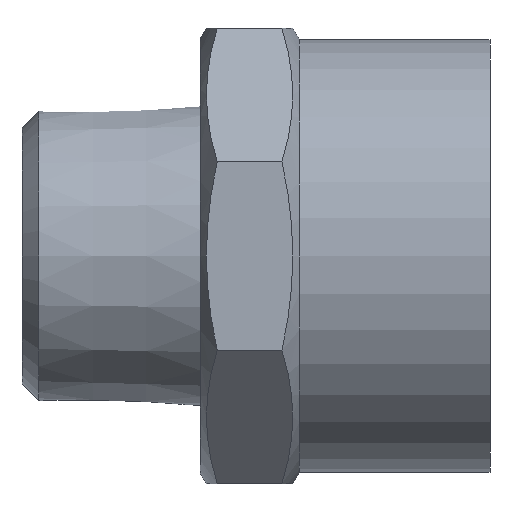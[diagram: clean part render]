
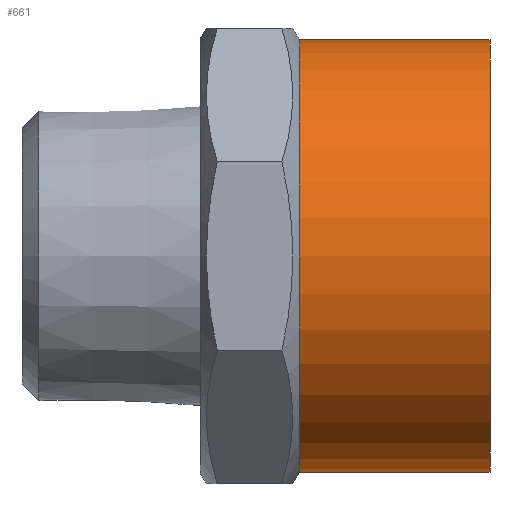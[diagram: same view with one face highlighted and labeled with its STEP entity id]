
A CAD part, front view. The second image highlights one B-rep face of the part: STEP entity #661.
In plain terms, the highlighted cylindrical face has radius 19.425 mm (diameter 38.85 mm), a full revolution.
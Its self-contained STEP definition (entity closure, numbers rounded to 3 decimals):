
#470=CARTESIAN_POINT('',(24.892,19.425,0.0));
#471=VERTEX_POINT('',#470);
#472=CARTESIAN_POINT('',(24.892,0.0,0.0));
#473=DIRECTION('',(1.0,0.0,0.0));
#474=DIRECTION('',(0.0,1.0,0.0));
#475=AXIS2_PLACEMENT_3D('',#472,#473,#474);
#476=CIRCLE('',#475,19.425);
#477=EDGE_CURVE('',#471,#471,#476,.T.);
#642=CARTESIAN_POINT('',(33.446,0.0,0.0));
#643=DIRECTION('',(1.0,0.0,0.0));
#644=DIRECTION('',(0.0,1.0,0.0));
#645=AXIS2_PLACEMENT_3D('',#642,#643,#644);
#646=CYLINDRICAL_SURFACE('',#645,19.425);
#647=CARTESIAN_POINT('',(42.0,19.425,0.0));
#648=VERTEX_POINT('',#647);
#649=CARTESIAN_POINT('',(42.0,0.0,0.0));
#650=DIRECTION('',(1.0,0.0,0.0));
#651=DIRECTION('',(0.0,1.0,0.0));
#652=AXIS2_PLACEMENT_3D('',#649,#650,#651);
#653=CIRCLE('',#652,19.425);
#654=EDGE_CURVE('',#648,#648,#653,.T.);
#655=ORIENTED_EDGE('',*,*,#654,.F.);
#656=EDGE_LOOP('',(#655));
#657=FACE_OUTER_BOUND('',#656,.T.);
#658=ORIENTED_EDGE('',*,*,#477,.T.);
#659=EDGE_LOOP('',(#658));
#660=FACE_BOUND('',#659,.T.);
#661=ADVANCED_FACE('',(#657,#660),#646,.T.);
